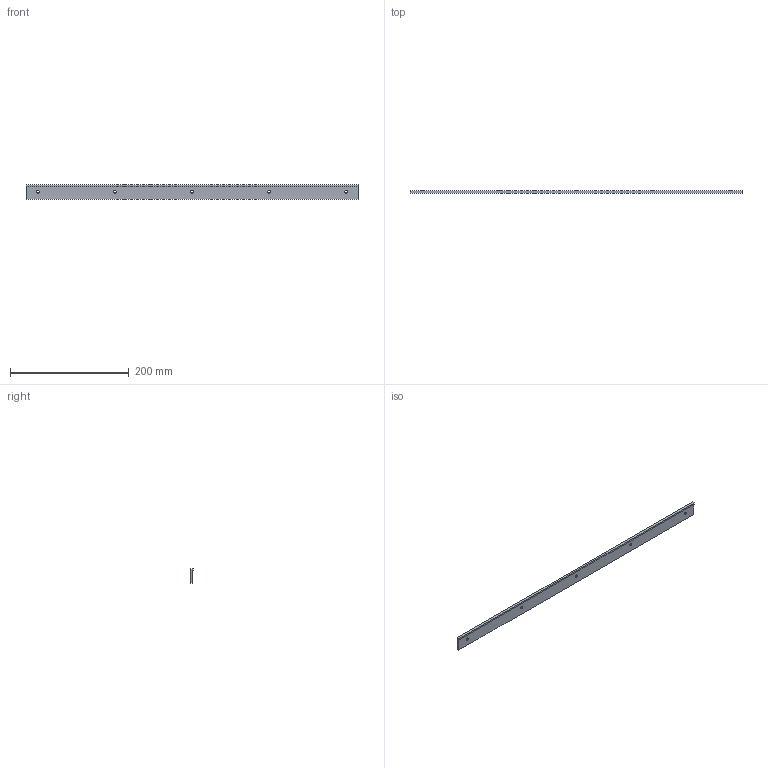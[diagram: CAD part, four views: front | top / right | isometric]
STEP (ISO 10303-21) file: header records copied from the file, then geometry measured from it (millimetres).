
FILE_DESCRIPTION(('STEP AP203'), '1');
FILE_NAME('眐珆1801.01.08.02.005 - 砎鳽鳻', '', ('UNSPECIFIED'), ('UNSPECIFIED'), 'C3D Converter', 'C3D Toolkit', '');
FILE_SCHEMA(('CONFIG_CONTROL_DESIGN'));
Length unit declared in the file: millimetre
Products named in the file (1): ТППФ1801.01.08.02.005
Bounding box: 560 x 4.3 x 25 mm (x, y, z)
Volume: 39825.3 mm3; surface area: 32990.8 mm2
Topology: 1 solids, 1 shells, 13 faces, 33 edges, 22 vertices
Faces by surface type: plane 8, cylinder 5
Full cylindrical faces by diameter (mm): 4.5 x5
Entity records: 536 total; most frequent: DIRECTION 66, CARTESIAN_POINT 64, ORIENTED_EDGE 56, EDGE_LOOP 28, EDGE_CURVE 28, AXIS2_PLACEMENT_3D 24, VERTEX_POINT 22, FACE_BOUND 18
